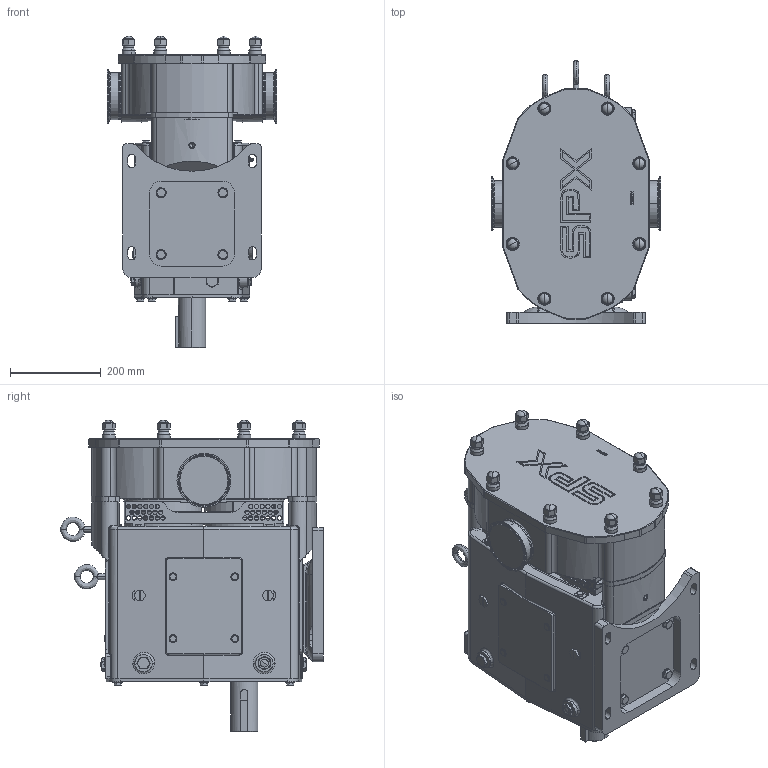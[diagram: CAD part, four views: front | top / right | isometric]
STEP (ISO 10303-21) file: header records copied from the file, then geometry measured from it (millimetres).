
FILE_DESCRIPTION (( 'STEP AP214' ), '1' );
FILE_NAME ('Model 210 Universal 3 Series Lower Drive.STEP', '2017-11-27T19:03:19', ( '' ), ( '' ), 'SwSTEP 2.0', 'SolidWorks 2014', '' );
FILE_SCHEMA (( 'AUTOMOTIVE_DESIGN' ));
Length unit declared in the file: inch
Products named in the file (1): Model 210 Universal 3 Series Lower Drive
Bounding box: 374.18 x 579.72 x 687.51 mm (x, y, z)
Volume: 58844608.3 mm3; surface area: 1656257.4 mm2
Topology: 1 solids, 1 shells, 2468 faces, 6378 edges, 4072 vertices
Faces by surface type: plane 992, cylinder 765, torus 314, cone 195, bspline 178, sphere 24
Entity records: 90771 total; most frequent: CARTESIAN_POINT 30638, ORIENTED_EDGE 12748, DIRECTION 12442, EDGE_CURVE 6374, AXIS2_PLACEMENT_3D 4743, VERTEX_POINT 4072, VECTOR 2956, LINE 2956
